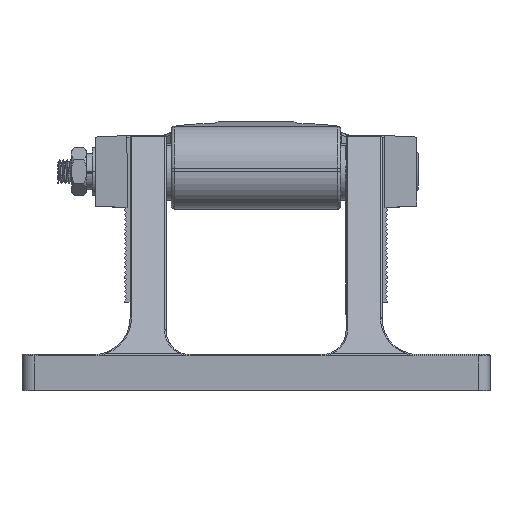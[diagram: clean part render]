
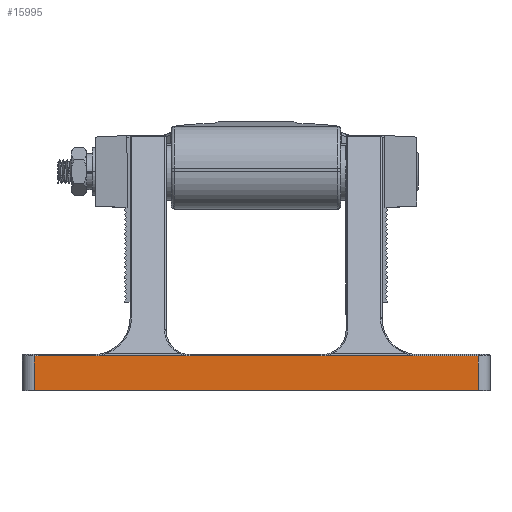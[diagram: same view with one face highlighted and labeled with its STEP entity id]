
A CAD part, top view. The second image highlights one B-rep face of the part: STEP entity #15995.
In plain terms, the highlighted planar face has unit normal (0, 0, 1).
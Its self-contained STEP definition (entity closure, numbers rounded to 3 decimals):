
#50 = VERTEX_POINT ( 'NONE', #21561 ) ;
#192 = DIRECTION ( 'NONE',  ( -1., 0., 0. ) ) ;
#306 = VERTEX_POINT ( 'NONE', #25718 ) ;
#941 = VECTOR ( 'NONE', #9071, 1000. ) ;
#1556 = VECTOR ( 'NONE', #18849, 1000. ) ;
#1602 = EDGE_CURVE ( 'NONE', #1782, #6434, #9866, .T. ) ;
#1680 = AXIS2_PLACEMENT_3D ( 'NONE', #23271, #9600, #25574 ) ;
#1782 = VERTEX_POINT ( 'NONE', #16936 ) ;
#1859 = EDGE_LOOP ( 'NONE', ( #13535, #6047, #5882, #26945, #8020, #22441, #4141, #16117, #7042, #12575, #1975, #3734 ) ) ;
#1975 = ORIENTED_EDGE ( 'NONE', *, *, #13231, .T. ) ;
#2033 = VERTEX_POINT ( 'NONE', #26787 ) ;
#2242 = EDGE_CURVE ( 'NONE', #11006, #1782, #6210, .T. ) ;
#2850 = CARTESIAN_POINT ( 'NONE',  ( 4., 12., 0. ) ) ;
#3398 = DIRECTION ( 'NONE',  ( 0., 0., -1. ) ) ;
#3437 = CARTESIAN_POINT ( 'NONE',  ( 132., 11.5, 0. ) ) ;
#3734 = ORIENTED_EDGE ( 'NONE', *, *, #27244, .T. ) ;
#3878 = CARTESIAN_POINT ( 'NONE',  ( 24., 11.5, 0. ) ) ;
#4001 = VERTEX_POINT ( 'NONE', #18695 ) ;
#4141 = ORIENTED_EDGE ( 'NONE', *, *, #18356, .T. ) ;
#4230 = CARTESIAN_POINT ( 'NONE',  ( 0., 11.5, 0. ) ) ;
#4664 = DIRECTION ( 'NONE',  ( -1., 0., 0. ) ) ;
#5671 = DIRECTION ( 'NONE',  ( 0., 0., -1. ) ) ;
#5818 = AXIS2_PLACEMENT_3D ( 'NONE', #21398, #7688, #23703 ) ;
#5882 = ORIENTED_EDGE ( 'NONE', *, *, #25609, .T. ) ;
#6047 = ORIENTED_EDGE ( 'NONE', *, *, #10092, .T. ) ;
#6210 = LINE ( 'NONE', #2850, #1556 ) ;
#6434 = VERTEX_POINT ( 'NONE', #29355 ) ;
#6450 = CARTESIAN_POINT ( 'NONE',  ( 100., 11.5, 0. ) ) ;
#6484 = VECTOR ( 'NONE', #17070, 1000. ) ;
#6524 = DIRECTION ( 'NONE',  ( -1., 0., 0. ) ) ;
#7042 = ORIENTED_EDGE ( 'NONE', *, *, #2242, .T. ) ;
#7415 = VERTEX_POINT ( 'NONE', #24587 ) ;
#7688 = DIRECTION ( 'NONE',  ( 0., 0., -1. ) ) ;
#8020 = ORIENTED_EDGE ( 'NONE', *, *, #10063, .T. ) ;
#9071 = DIRECTION ( 'NONE',  ( 0., 1., 0. ) ) ;
#9092 = CIRCLE ( 'NONE', #10431, 12.5 ) ;
#9596 = FACE_OUTER_BOUND ( 'NONE', #1859, .T. ) ;
#9600 = DIRECTION ( 'NONE',  ( 0., 0., -1. ) ) ;
#9866 = LINE ( 'NONE', #13447, #15204 ) ;
#10063 = EDGE_CURVE ( 'NONE', #7415, #25158, #24757, .T. ) ;
#10092 = EDGE_CURVE ( 'NONE', #2033, #306, #17933, .T. ) ;
#10201 = LINE ( 'NONE', #4230, #21625 ) ;
#10431 = AXIS2_PLACEMENT_3D ( 'NONE', #17102, #3398, #19399 ) ;
#11006 = VERTEX_POINT ( 'NONE', #19578 ) ;
#11487 = CARTESIAN_POINT ( 'NONE',  ( 0., 12., 0. ) ) ;
#12091 = LINE ( 'NONE', #13920, #23533 ) ;
#12575 = ORIENTED_EDGE ( 'NONE', *, *, #1602, .T. ) ;
#13004 = EDGE_CURVE ( 'NONE', #22750, #7415, #12091, .T. ) ;
#13047 = VECTOR ( 'NONE', #24455, 1000. ) ;
#13231 = EDGE_CURVE ( 'NONE', #6434, #4001, #25302, .T. ) ;
#13447 = CARTESIAN_POINT ( 'NONE',  ( 0., 0., 0. ) ) ;
#13535 = ORIENTED_EDGE ( 'NONE', *, *, #20381, .T. ) ;
#13920 = CARTESIAN_POINT ( 'NONE',  ( 0., 11.5, 0. ) ) ;
#15099 = VERTEX_POINT ( 'NONE', #3437 ) ;
#15204 = VECTOR ( 'NONE', #15710, 1000. ) ;
#15499 = LINE ( 'NONE', #29322, #26962 ) ;
#15502 = DIRECTION ( 'NONE',  ( -1., 0., 0. ) ) ;
#15610 = CIRCLE ( 'NONE', #1680, 8.5 ) ;
#15710 = DIRECTION ( 'NONE',  ( 1., 0., 0. ) ) ;
#15995 = ADVANCED_FACE ( 'NONE', ( #9596 ), #25072, .F. ) ;
#16117 = ORIENTED_EDGE ( 'NONE', *, *, #27838, .T. ) ;
#16717 = AXIS2_PLACEMENT_3D ( 'NONE', #19358, #5671, #21691 ) ;
#16936 = CARTESIAN_POINT ( 'NONE',  ( 4., 0., 0. ) ) ;
#17070 = DIRECTION ( 'NONE',  ( -1., 0., 0. ) ) ;
#17102 = CARTESIAN_POINT ( 'NONE',  ( 24., 24., 0. ) ) ;
#17933 = LINE ( 'NONE', #23998, #6484 ) ;
#18351 = DIRECTION ( 'NONE',  ( 0., 0., -1. ) ) ;
#18356 = EDGE_CURVE ( 'NONE', #50, #20551, #9092, .T. ) ;
#18695 = CARTESIAN_POINT ( 'NONE',  ( 152., 11.5, 0. ) ) ;
#18849 = DIRECTION ( 'NONE',  ( 0., -1., 0. ) ) ;
#19101 = LINE ( 'NONE', #22158, #13047 ) ;
#19358 = CARTESIAN_POINT ( 'NONE',  ( 56., 20., 0. ) ) ;
#19383 = CARTESIAN_POINT ( 'NONE',  ( 54.521, 11.63, 0. ) ) ;
#19399 = DIRECTION ( 'NONE',  ( -1., 0., 0. ) ) ;
#19578 = CARTESIAN_POINT ( 'NONE',  ( 4., 11.5, 0. ) ) ;
#20381 = EDGE_CURVE ( 'NONE', #15099, #2033, #21201, .T. ) ;
#20551 = VERTEX_POINT ( 'NONE', #3878 ) ;
#21201 = CIRCLE ( 'NONE', #5818, 12.5 ) ;
#21398 = CARTESIAN_POINT ( 'NONE',  ( 132., 24., 0. ) ) ;
#21561 = CARTESIAN_POINT ( 'NONE',  ( 25.795, 11.63, 0. ) ) ;
#21625 = VECTOR ( 'NONE', #6524, 1000. ) ;
#21656 = AXIS2_PLACEMENT_3D ( 'NONE', #11487, #18351, #4664 ) ;
#21691 = DIRECTION ( 'NONE',  ( -1., 0., 0. ) ) ;
#22158 = CARTESIAN_POINT ( 'NONE',  ( 27.5, 11.63, 0. ) ) ;
#22441 = ORIENTED_EDGE ( 'NONE', *, *, #27128, .T. ) ;
#22750 = VERTEX_POINT ( 'NONE', #6450 ) ;
#23271 = CARTESIAN_POINT ( 'NONE',  ( 100., 20., 0. ) ) ;
#23533 = VECTOR ( 'NONE', #192, 1000. ) ;
#23703 = DIRECTION ( 'NONE',  ( -1., 0., 0. ) ) ;
#23998 = CARTESIAN_POINT ( 'NONE',  ( 102.872, 11.63, 0. ) ) ;
#24455 = DIRECTION ( 'NONE',  ( -1., 0., 0. ) ) ;
#24587 = CARTESIAN_POINT ( 'NONE',  ( 56., 11.5, 0. ) ) ;
#24757 = CIRCLE ( 'NONE', #16717, 8.5 ) ;
#25072 = PLANE ( 'NONE',  #21656 ) ;
#25158 = VERTEX_POINT ( 'NONE', #19383 ) ;
#25302 = LINE ( 'NONE', #29656, #941 ) ;
#25574 = DIRECTION ( 'NONE',  ( -1., 0., 0. ) ) ;
#25609 = EDGE_CURVE ( 'NONE', #306, #22750, #15610, .T. ) ;
#25718 = CARTESIAN_POINT ( 'NONE',  ( 101.479, 11.63, 0. ) ) ;
#26787 = CARTESIAN_POINT ( 'NONE',  ( 130.205, 11.63, 0. ) ) ;
#26945 = ORIENTED_EDGE ( 'NONE', *, *, #13004, .T. ) ;
#26962 = VECTOR ( 'NONE', #15502, 1000. ) ;
#27128 = EDGE_CURVE ( 'NONE', #25158, #50, #19101, .T. ) ;
#27244 = EDGE_CURVE ( 'NONE', #4001, #15099, #10201, .T. ) ;
#27838 = EDGE_CURVE ( 'NONE', #20551, #11006, #15499, .T. ) ;
#29322 = CARTESIAN_POINT ( 'NONE',  ( 0., 11.5, 0. ) ) ;
#29355 = CARTESIAN_POINT ( 'NONE',  ( 152., 0., 0. ) ) ;
#29656 = CARTESIAN_POINT ( 'NONE',  ( 152., 12., 0. ) ) ;
